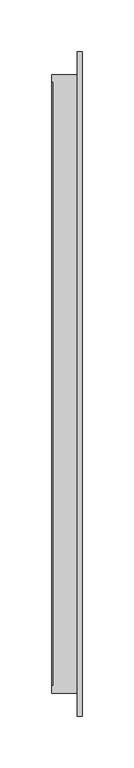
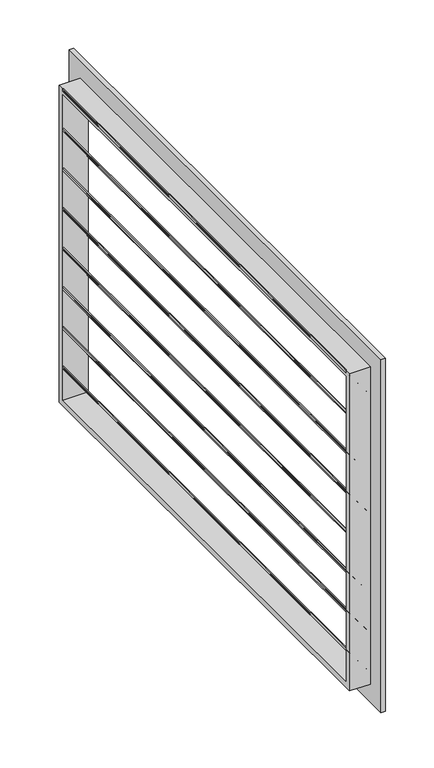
"""IFC4 building model written with IfcOpenShell, lengths in millimetres: air terminal geometry, BL_РешеткаПрямоугольная_Вытяжная_LVN : BL_РешеткаПрямоугольная_Вытяжная_LVN."""

from ifc_helpers import new_model, si_unit, frame, origin, place, context, project, spatial, polyline, outline, extrude, faceted_brep, source, transform, mapped, element, save


def air_terminal_7ce92efb(model_context):
    return source(origin(), model_context, "Body", "SolidModel", [
        extrude(outline(polyline([(158.0, 30.0), (197.0, 1.0), (200.0, 1.0), (200.0, 0.0), (197.0, 0.0), (158.0, 29.0), (155.0, 29.0), (155.0, 30.0), (158.0, 30.0)])), frame((0.0, -292.5, 0.0), z_axis=(0.0, 1.0, 0.0), x_axis=(0.0, 0.0, 1.0)), (0.0, 0.0, 1.0), 585.0),
        extrude(outline(polyline([(108.0, 30.0), (147.0, 1.0), (150.0, 1.0), (150.0, 0.0), (147.0, 0.0), (108.0, 29.0), (105.0, 29.0), (105.0, 30.0), (108.0, 30.0)])), frame((0.0, -292.5, 0.0), z_axis=(0.0, 1.0, 0.0), x_axis=(0.0, 0.0, 1.0)), (0.0, 0.0, 1.0), 585.0),
        extrude(outline(polyline([(58.0, 30.0), (97.0, 1.0), (100.0, 1.0), (100.0, 0.0), (97.0, 0.0), (58.0, 29.0), (55.0, 29.0), (55.0, 30.0), (58.0, 30.0)])), frame((0.0, -292.5, 0.0), z_axis=(0.0, 1.0, 0.0), x_axis=(0.0, 0.0, 1.0)), (0.0, 0.0, 1.0), 585.0),
        extrude(outline(polyline([(8.0, 30.0), (47.0, 1.0), (50.0, 1.0), (50.0, 0.0), (47.0, 0.0), (8.0, 29.0), (5.0, 29.0), (5.0, 30.0), (8.0, 30.0)])), frame((0.0, -292.5, 0.0), z_axis=(0.0, 1.0, 0.0), x_axis=(0.0, 0.0, 1.0)), (0.0, 0.0, 1.0), 585.0),
        extrude(outline(polyline([(-42.0, 30.0), (-3.0, 1.0), (0.0, 1.0), (0.0, 0.0), (-3.0, 0.0), (-42.0, 29.0), (-45.0, 29.0), (-45.0, 30.0), (-42.0, 30.0)])), frame((0.0, -292.5, 0.0), z_axis=(0.0, 1.0, 0.0), x_axis=(0.0, 0.0, 1.0)), (0.0, 0.0, 1.0), 585.0),
        extrude(outline(polyline([(-92.0, 30.0), (-53.0, 1.0), (-50.0, 1.0), (-50.0, 0.0), (-53.0, 0.0), (-92.0, 29.0), (-95.0, 29.0), (-95.0, 30.0), (-92.0, 30.0)])), frame((0.0, -292.5, 0.0), z_axis=(0.0, 1.0, 0.0), x_axis=(0.0, 0.0, 1.0)), (0.0, 0.0, 1.0), 585.0),
        extrude(outline(polyline([(-142.0, 30.0), (-103.0, 1.0), (-100.0, 1.0), (-100.0, 0.0), (-103.0, 0.0), (-142.0, 29.0), (-145.0, 29.0), (-145.0, 30.0), (-142.0, 30.0)])), frame((0.0, -292.5, 0.0), z_axis=(0.0, 1.0, 0.0), x_axis=(0.0, 0.0, 1.0)), (0.0, 0.0, 1.0), 585.0),
        extrude(outline(polyline([(-192.0, 30.0), (-153.0, 1.0), (-150.0, 1.0), (-150.0, 0.0), (-153.0, 0.0), (-192.0, 29.0), (-195.0, 29.0), (-195.0, 30.0), (-192.0, 30.0)])), frame((0.0, -292.5, 0.0), z_axis=(0.0, 1.0, 0.0), x_axis=(0.0, 0.0, 1.0)), (0.0, 0.0, 1.0), 585.0),
        faceted_brep([(30.0, -322.5, 222.5), (30.0, -322.5, -222.5), (30.0, 322.5, -222.5), (30.0, 322.5, 222.5), (30.0, -292.5, 192.5), (30.0, 292.5, 192.5), (30.0, 292.5, -192.5), (30.0, -292.5, -192.5), (0.0, -300.0, 200.0), (0.0, 300.0, 200.0), (0.0, 300.0, -200.0), (0.0, -300.0, -200.0), (0.0, -292.5, 192.5), (0.0, -292.5, -192.5), (0.0, 292.5, -192.5), (0.0, 292.5, 192.5), (25.0, -322.5, 222.5), (25.0, -322.5, -222.5), (25.0, 322.5, -222.5), (25.0, 322.5, 222.5), (25.0, -300.0, 200.0), (25.0, -300.0, -200.0), (25.0, 300.0, -200.0), (25.0, 300.0, 200.0)], [[[0, 1, 2, 3], [4, 5, 6, 7]], [[8, 9, 10, 11], [12, 13, 14, 15]], [[1, 0, 16, 17]], [[2, 1, 17, 18]], [[3, 2, 18, 19]], [[0, 3, 19, 16]], [[17, 16, 19, 18], [20, 21, 22, 23]], [[20, 23, 9, 8]], [[23, 22, 10, 9]], [[22, 21, 11, 10]], [[21, 20, 8, 11]], [[5, 4, 12, 15]], [[6, 5, 15, 14]], [[7, 6, 14, 13]], [[4, 7, 13, 12]]]),
    ])


if __name__ == "__main__":
    model = new_model("IFC4")
    model_context = context("Model", 3, world=origin())
    ifc_project = project(units=[si_unit("LENGTHUNIT", "METRE", prefix="MILLI")], contexts=[model_context])
    site = spatial("IfcSite", under=ifc_project)
    building = spatial("IfcBuilding", under=site)
    placement = place(None, origin())
    air_terminal_shape = air_terminal_7ce92efb(model_context)
    element("IfcAirTerminal", 1, ObjectType="BL_РешеткаПрямоугольная_Вытяжная_LVN : BL_РешеткаПрямоугольная_Вытяжная_LVN", at=placement, inside=building, context=model_context, shape_type="MappedRepresentation", body=[
        mapped(air_terminal_shape, transform((0.0, 0.0, 0.0), x_axis=(1.0, 0.0, 0.0), y_axis=(0.0, 1.0, 0.0), z_axis=(0.0, 0.0, 1.0))),
    ])
    save(model, "model.ifc")
